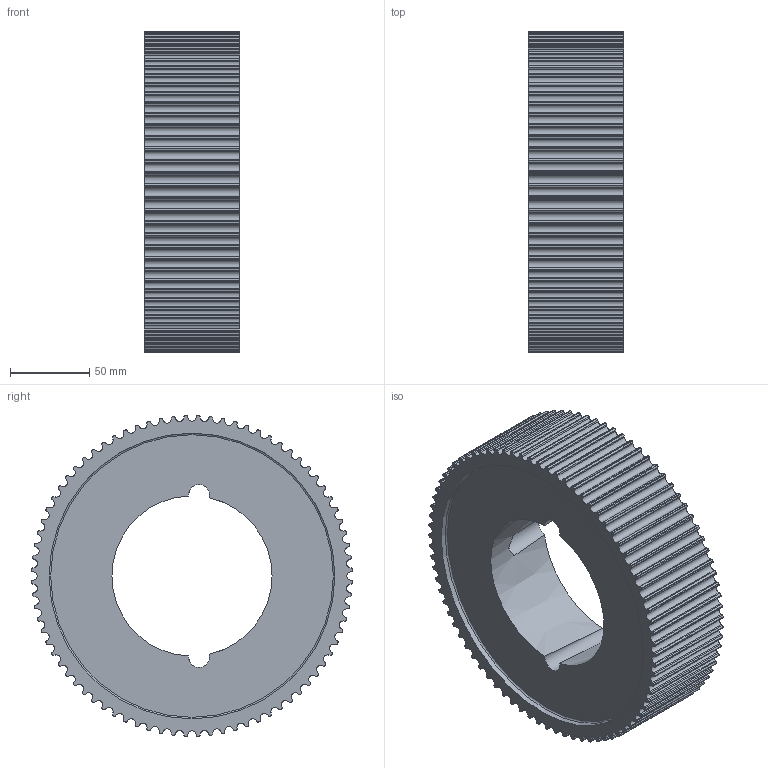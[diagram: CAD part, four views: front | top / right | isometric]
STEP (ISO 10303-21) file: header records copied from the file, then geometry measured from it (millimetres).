
FILE_DESCRIPTION( ( 'STEP AP203' ), '1' );
FILE_NAME( 'C:/Users/Stangenbergd/Documents/CAD_Step/1/17477440.stp', '2020-09-13T18:00:06', ( 'License CC BY-ND 4.0' ), ( 'CADENAS' ), ' ', 'PARTsolutions', ' ' );
FILE_SCHEMA( ( 'CONFIG_CONTROL_DESIGN' ) );
Length unit declared in the file: millimetre
Products named in the file (1): _17477440
Bounding box: 60 x 202.21 x 202.21 mm (x, y, z)
Volume: 1175928.9 mm3; surface area: 122831 mm2
Topology: 1 solids, 1 shells, 494 faces, 1468 edges, 978 vertices
Faces by surface type: cylinder 325, plane 164, cone 3, torus 2
Full cylindrical faces by diameter (mm): 180 x2
Entity records: 16916 total; most frequent: DIRECTION 3104, CARTESIAN_POINT 2986, ORIENTED_EDGE 2928, EDGE_CURVE 1464, AXIS2_PLACEMENT_3D 1152, VERTEX_POINT 978, LINE 800, VECTOR 800
